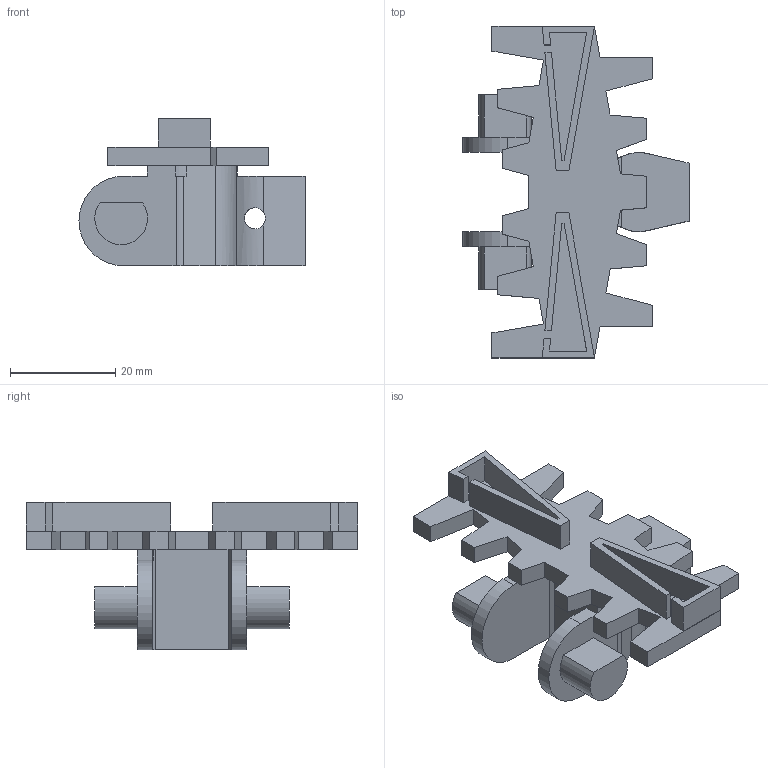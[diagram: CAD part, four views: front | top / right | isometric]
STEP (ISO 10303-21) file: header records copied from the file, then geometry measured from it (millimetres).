
FILE_DESCRIPTION (( 'STEP AP214' ), '1' );
FILE_NAME ('FSCT-5A-H5.5-P.STEP', '2011-09-28T07:34:39', ( '.' ), ( '' ), 'SwSTEP 2.0', 'SolidWorks 2010', '' );
FILE_SCHEMA (( 'AUTOMOTIVE_DESIGN' ));
Length unit declared in the file: millimetre
Products named in the file (1): FSCT-5A-H5.5-P
Bounding box: 42.9 x 63 x 28 mm (x, y, z)
Volume: 14265.8 mm3; surface area: 8816.6 mm2
Topology: 1 solids, 1 shells, 115 faces, 333 edges, 220 vertices
Faces by surface type: plane 101, cylinder 14
Entity records: 3849 total; most frequent: CARTESIAN_POINT 767, ORIENTED_EDGE 666, DIRECTION 585, EDGE_CURVE 333, VECTOR 297, LINE 297, VERTEX_POINT 220, AXIS2_PLACEMENT_3D 144
